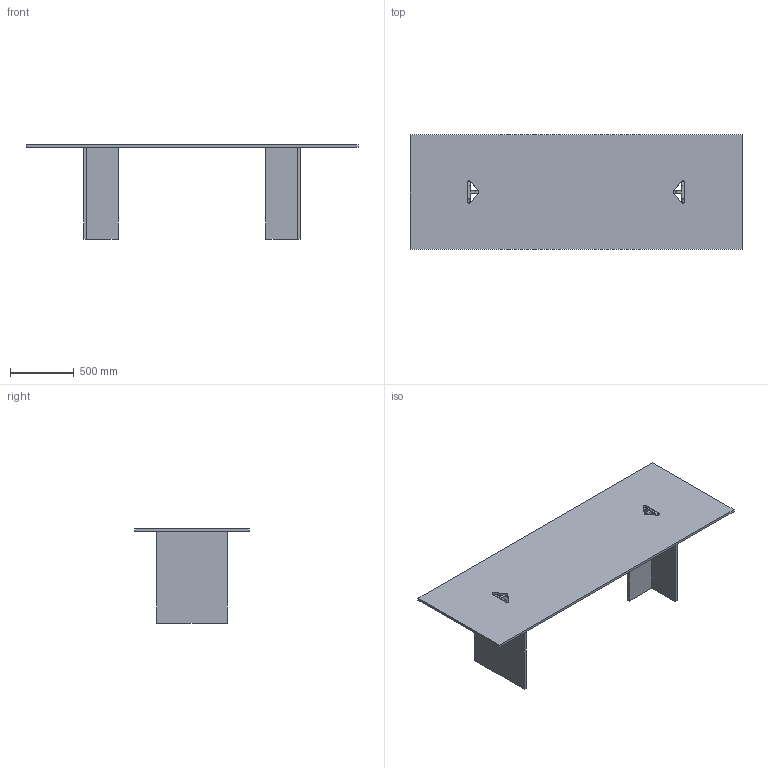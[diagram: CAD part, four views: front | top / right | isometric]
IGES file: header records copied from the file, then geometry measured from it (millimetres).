
Global section: file name: C:\Users\l.marzoli\Desktop\LLT_OFX_EXECUTIVE_3D\LLT-E-26 - LLT OFX Executive 260x90.igs; native system: Rhinoceros ( Aug 11 2021 ); preprocessor: Trout Lake IGES 012 Aug 11 2021; date: 231207.100430; units: millimetre
Bounding box: 2600 x 900 x 737 mm (x, y, z)
Surface area: 7263992.2 mm2 (no closed solid volume)
Topology: 0 solids, 0 shells, 42 faces, 252 edges, 252 vertices
Faces by surface type: bspline 42
